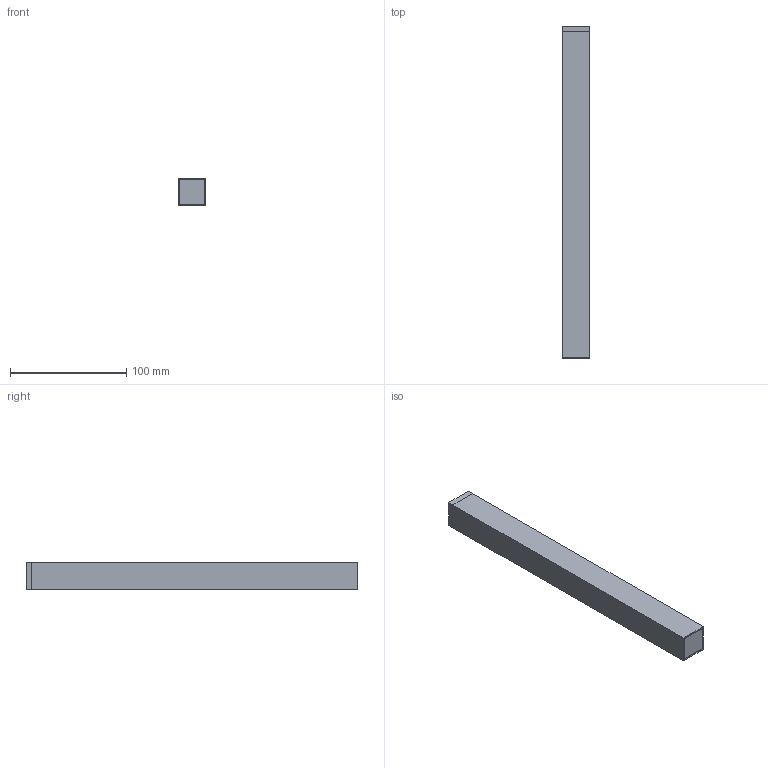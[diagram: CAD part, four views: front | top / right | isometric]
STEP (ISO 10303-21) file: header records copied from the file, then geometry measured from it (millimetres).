
FILE_DESCRIPTION(/* description */ (''),/* implementation_level */ '2;1');
FILE_NAME(/* name */ 'BM02-S2424-285L-N.step',/* time_stamp */ '2025-10-10T15:31:56+09:00',/* author */ (''),/* organization */ (''),/* preprocessor_version */ 'ST-DEVELOPER v20.1',/* originating_system */ 'Autodesk Translation Framework v14.17.0.0',/* authorisation */ '');
FILE_SCHEMA (('AUTOMOTIVE_DESIGN { 1 0 10303 214 3 1 1 }'));
Length unit declared in the file: millimetre
Products named in the file (4): BM02-S2424-285L-N; Component1; Component2; Component3
Assembly tree (3 placements, depth 2):
  BM02-S2424-285L-N
    Component1
    Component2
    Component3
Bounding box: 24 x 285 x 24 mm (x, y, z)
Volume: 145938 mm3; surface area: 77198.2 mm2
Topology: 4 solids, 4 shells, 39 faces, 85 edges, 55 vertices
Faces by surface type: plane 37, cone 1, cylinder 1
Full cylindrical faces by diameter (mm): 4.234 x1
Entity records: 1172 total; most frequent: CARTESIAN_POINT 185, DIRECTION 178, ORIENTED_EDGE 168, EDGE_CURVE 84, LINE 82, VECTOR 82, VERTEX_POINT 55, AXIS2_PLACEMENT_3D 48
